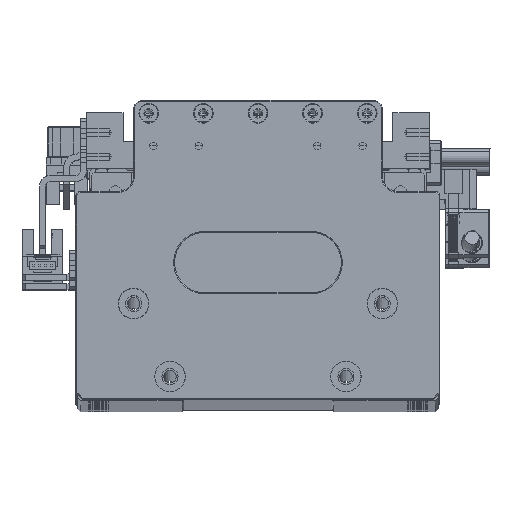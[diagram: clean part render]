
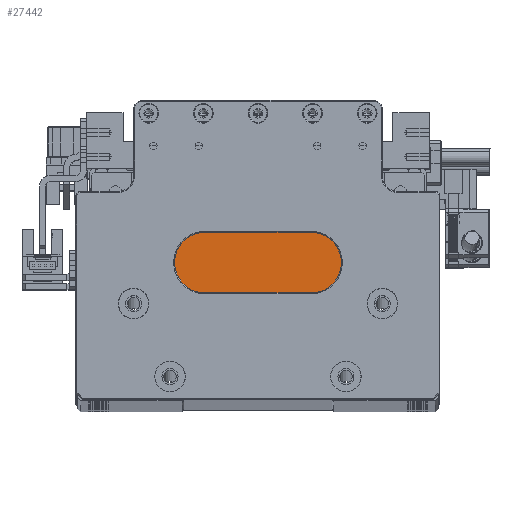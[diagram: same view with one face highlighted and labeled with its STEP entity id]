
A CAD part, top view. The second image highlights one B-rep face of the part: STEP entity #27442.
In plain terms, the highlighted planar face has unit normal (0, 0, 1).
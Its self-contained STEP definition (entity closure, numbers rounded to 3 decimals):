
#778 = DIRECTION ( 'NONE',  ( 1., 0., 0. ) ) ;
#1709 = EDGE_CURVE ( 'NONE', #109713, #38425, #36725, .T. ) ;
#3441 = DIRECTION ( 'NONE',  ( 0., -1., 0. ) ) ;
#8558 = CARTESIAN_POINT ( 'NONE',  ( -23.132, -9.023, 340. ) ) ;
#8842 = LINE ( 'NONE', #123291, #81735 ) ;
#9837 = DIRECTION ( 'NONE',  ( 0., 0., 1. ) ) ;
#9972 = CARTESIAN_POINT ( 'NONE',  ( 13.868, -9.023, 340. ) ) ;
#10737 = CARTESIAN_POINT ( 'NONE',  ( -34.632, -49.023, 340. ) ) ;
#12047 = ORIENTED_EDGE ( 'NONE', *, *, #81351, .T. ) ;
#13658 = VERTEX_POINT ( 'NONE', #96657 ) ;
#13858 = EDGE_CURVE ( 'NONE', #15677, #37157, #68595, .T. ) ;
#15677 = VERTEX_POINT ( 'NONE', #20339 ) ;
#16129 = DIRECTION ( 'NONE',  ( -1., 0., 0. ) ) ;
#16828 = ORIENTED_EDGE ( 'NONE', *, *, #92353, .T. ) ;
#18269 = LINE ( 'NONE', #122083, #67990 ) ;
#18983 = CARTESIAN_POINT ( 'NONE',  ( -12.132, -17.023, 340. ) ) ;
#20339 = CARTESIAN_POINT ( 'NONE',  ( 13.868, -17.023, 340. ) ) ;
#21100 = FACE_BOUND ( 'NONE', #40181, .T. ) ;
#22254 = VECTOR ( 'NONE', #117866, 1000. ) ;
#27442 = ADVANCED_FACE ( 'NONE', ( #47545, #21100, #73910 ), #118550, .T. ) ;
#28967 = DIRECTION ( 'NONE',  ( 1., 0., 0. ) ) ;
#30307 = ORIENTED_EDGE ( 'NONE', *, *, #1709, .T. ) ;
#30561 = CARTESIAN_POINT ( 'NONE',  ( 1.618, -17.023, 340. ) ) ;
#30871 = CARTESIAN_POINT ( 'NONE',  ( -13.382, -17.023, 340. ) ) ;
#32772 = DIRECTION ( 'NONE',  ( 0., 0., -1. ) ) ;
#32984 = CARTESIAN_POINT ( 'NONE',  ( 25.168, -9.023, 340. ) ) ;
#33750 = CARTESIAN_POINT ( 'NONE',  ( -23.132, -9.223, 340. ) ) ;
#33931 = CARTESIAN_POINT ( 'NONE',  ( 25.168, -49.023, 340. ) ) ;
#34083 = EDGE_CURVE ( 'NONE', #36816, #79053, #77315, .T. ) ;
#35589 = ORIENTED_EDGE ( 'NONE', *, *, #42406, .T. ) ;
#36725 = CIRCLE ( 'NONE', #46625, 1.25 ) ;
#36816 = VERTEX_POINT ( 'NONE', #33750 ) ;
#37157 = VERTEX_POINT ( 'NONE', #128437 ) ;
#38425 = VERTEX_POINT ( 'NONE', #121172 ) ;
#39316 = CARTESIAN_POINT ( 'NONE',  ( -4.632, -9.023, 340. ) ) ;
#40181 = EDGE_LOOP ( 'NONE', ( #35589, #30307 ) ) ;
#40902 = CARTESIAN_POINT ( 'NONE',  ( -34.432, -17.023, 340. ) ) ;
#41528 = DIRECTION ( 'NONE',  ( -1., 0., 0. ) ) ;
#42369 = EDGE_CURVE ( 'NONE', #13658, #15677, #42489, .T. ) ;
#42406 = EDGE_CURVE ( 'NONE', #38425, #109713, #88976, .T. ) ;
#42489 = LINE ( 'NONE', #48642, #22254 ) ;
#45324 = ORIENTED_EDGE ( 'NONE', *, *, #71911, .T. ) ;
#46511 = ORIENTED_EDGE ( 'NONE', *, *, #102828, .T. ) ;
#46625 = AXIS2_PLACEMENT_3D ( 'NONE', #92128, #32772, #102007 ) ;
#47545 = FACE_OUTER_BOUND ( 'NONE', #109623, .T. ) ;
#48642 = CARTESIAN_POINT ( 'NONE',  ( -4.632, -17.023, 340. ) ) ;
#49131 = AXIS2_PLACEMENT_3D ( 'NONE', #18983, #88367, #28967 ) ;
#50025 = EDGE_LOOP ( 'NONE', ( #12047, #117510 ) ) ;
#51012 = EDGE_CURVE ( 'NONE', #115162, #69524, #125798, .T. ) ;
#52160 = CARTESIAN_POINT ( 'NONE',  ( -12.132, -17.023, 340. ) ) ;
#55636 = CARTESIAN_POINT ( 'NONE',  ( -4.632, -17.023, 340. ) ) ;
#59054 = CARTESIAN_POINT ( 'NONE',  ( 2.868, -17.023, 340. ) ) ;
#62171 = DIRECTION ( 'NONE',  ( 1., 0., 0. ) ) ;
#62999 = VERTEX_POINT ( 'NONE', #118992 ) ;
#65864 = VECTOR ( 'NONE', #92342, 1000. ) ;
#67990 = VECTOR ( 'NONE', #3441, 1000. ) ;
#68029 = AXIS2_PLACEMENT_3D ( 'NONE', #59054, #128197, #69030 ) ;
#68595 = LINE ( 'NONE', #9972, #88685 ) ;
#69030 = DIRECTION ( 'NONE',  ( 1., 0., 0. ) ) ;
#69206 = ORIENTED_EDGE ( 'NONE', *, *, #34083, .T. ) ;
#69524 = VERTEX_POINT ( 'NONE', #33931 ) ;
#71911 = EDGE_CURVE ( 'NONE', #37157, #36816, #8842, .T. ) ;
#73197 = VECTOR ( 'NONE', #778, 1000. ) ;
#73910 = FACE_BOUND ( 'NONE', #50025, .T. ) ;
#75971 = ORIENTED_EDGE ( 'NONE', *, *, #51012, .T. ) ;
#76192 = CARTESIAN_POINT ( 'NONE',  ( -34.432, -49.023, 340. ) ) ;
#77315 = LINE ( 'NONE', #8558, #103526 ) ;
#78890 = AXIS2_PLACEMENT_3D ( 'NONE', #52160, #121383, #62171 ) ;
#79053 = VERTEX_POINT ( 'NONE', #123179 ) ;
#79199 = DIRECTION ( 'NONE',  ( 1., 0., 0. ) ) ;
#79768 = DIRECTION ( 'NONE',  ( 0., 1., 0. ) ) ;
#81351 = EDGE_CURVE ( 'NONE', #62999, #106954, #107329, .T. ) ;
#81403 = CIRCLE ( 'NONE', #78890, 1.25 ) ;
#81735 = VECTOR ( 'NONE', #41528, 1000. ) ;
#88367 = DIRECTION ( 'NONE',  ( 0., 0., -1. ) ) ;
#88685 = VECTOR ( 'NONE', #79768, 1000. ) ;
#88976 = CIRCLE ( 'NONE', #68029, 1.25 ) ;
#90697 = ORIENTED_EDGE ( 'NONE', *, *, #42369, .T. ) ;
#92128 = CARTESIAN_POINT ( 'NONE',  ( 2.868, -17.023, 340. ) ) ;
#92342 = DIRECTION ( 'NONE',  ( 0., 1., 0. ) ) ;
#92353 = EDGE_CURVE ( 'NONE', #125301, #115162, #18269, .T. ) ;
#93276 = VECTOR ( 'NONE', #16129, 1000. ) ;
#96657 = CARTESIAN_POINT ( 'NONE',  ( 25.168, -17.023, 340. ) ) ;
#98002 = AXIS2_PLACEMENT_3D ( 'NONE', #39316, #9837, #79199 ) ;
#99338 = ORIENTED_EDGE ( 'NONE', *, *, #120704, .T. ) ;
#99448 = LINE ( 'NONE', #55636, #93276 ) ;
#102007 = DIRECTION ( 'NONE',  ( 1., 0., 0. ) ) ;
#102092 = ORIENTED_EDGE ( 'NONE', *, *, #13858, .T. ) ;
#102828 = EDGE_CURVE ( 'NONE', #69524, #13658, #121508, .T. ) ;
#103526 = VECTOR ( 'NONE', #106870, 1000. ) ;
#106870 = DIRECTION ( 'NONE',  ( 0., -1., 0. ) ) ;
#106954 = VERTEX_POINT ( 'NONE', #30871 ) ;
#107329 = CIRCLE ( 'NONE', #49131, 1.25 ) ;
#109623 = EDGE_LOOP ( 'NONE', ( #45324, #69206, #99338, #16828, #75971, #46511, #90697, #102092 ) ) ;
#109713 = VERTEX_POINT ( 'NONE', #30561 ) ;
#115162 = VERTEX_POINT ( 'NONE', #76192 ) ;
#117510 = ORIENTED_EDGE ( 'NONE', *, *, #128445, .T. ) ;
#117866 = DIRECTION ( 'NONE',  ( -1., 0., 0. ) ) ;
#118550 = PLANE ( 'NONE',  #98002 ) ;
#118992 = CARTESIAN_POINT ( 'NONE',  ( -10.882, -17.023, 340. ) ) ;
#120704 = EDGE_CURVE ( 'NONE', #79053, #125301, #99448, .T. ) ;
#121172 = CARTESIAN_POINT ( 'NONE',  ( 4.118, -17.023, 340. ) ) ;
#121383 = DIRECTION ( 'NONE',  ( 0., 0., -1. ) ) ;
#121508 = LINE ( 'NONE', #32984, #65864 ) ;
#122083 = CARTESIAN_POINT ( 'NONE',  ( -34.432, -9.023, 340. ) ) ;
#123179 = CARTESIAN_POINT ( 'NONE',  ( -23.132, -17.023, 340. ) ) ;
#123291 = CARTESIAN_POINT ( 'NONE',  ( -4.632, -9.223, 340. ) ) ;
#125301 = VERTEX_POINT ( 'NONE', #40902 ) ;
#125798 = LINE ( 'NONE', #10737, #73197 ) ;
#128197 = DIRECTION ( 'NONE',  ( 0., 0., -1. ) ) ;
#128437 = CARTESIAN_POINT ( 'NONE',  ( 13.868, -9.223, 340. ) ) ;
#128445 = EDGE_CURVE ( 'NONE', #106954, #62999, #81403, .T. ) ;
